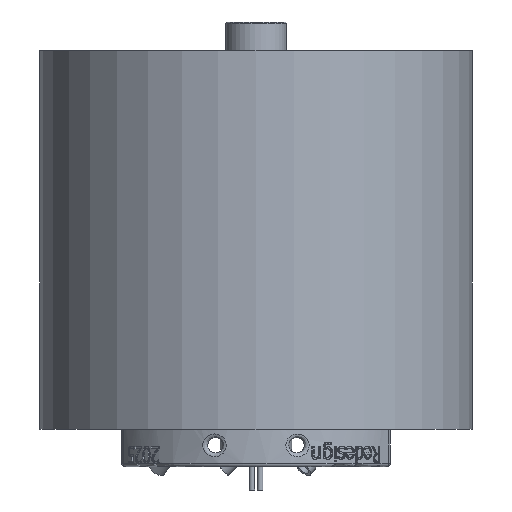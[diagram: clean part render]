
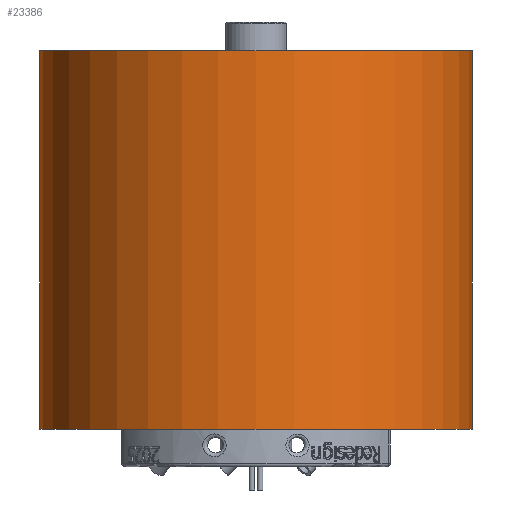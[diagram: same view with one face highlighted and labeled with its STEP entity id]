
A CAD part, front view. The second image highlights one B-rep face of the part: STEP entity #23386.
In plain terms, the highlighted cylindrical face has radius 60 mm (diameter 120 mm), a full revolution.
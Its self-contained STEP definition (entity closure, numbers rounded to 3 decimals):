
#2749=FACE_OUTER_BOUND('',#3996,.T.);
#3996=EDGE_LOOP('',(#19054,#19055,#19056,#19057));
#5339=LINE('',#45863,#7038);
#7038=VECTOR('',#28983,60.);
#8230=CIRCLE('',#24915,60.);
#8231=CIRCLE('',#24917,60.);
#10157=VERTEX_POINT('',#45859);
#10158=VERTEX_POINT('',#45862);
#13200=EDGE_CURVE('',#10157,#10157,#8230,.T.);
#13201=EDGE_CURVE('',#10157,#10158,#5339,.T.);
#13202=EDGE_CURVE('',#10158,#10158,#8231,.T.);
#19054=ORIENTED_EDGE('',*,*,#13200,.F.);
#19055=ORIENTED_EDGE('',*,*,#13201,.T.);
#19056=ORIENTED_EDGE('',*,*,#13202,.T.);
#19057=ORIENTED_EDGE('',*,*,#13201,.F.);
#21455=CYLINDRICAL_SURFACE('',#24916,60.);
#23386=ADVANCED_FACE('',(#2749),#21455,.T.);
#24915=AXIS2_PLACEMENT_3D('',#45860,#28979,#28980);
#24916=AXIS2_PLACEMENT_3D('',#45861,#28981,#28982);
#24917=AXIS2_PLACEMENT_3D('',#45864,#28984,#28985);
#28979=DIRECTION('center_axis',(0.,0.,-1.));
#28980=DIRECTION('ref_axis',(1.,0.,0.));
#28981=DIRECTION('center_axis',(0.,0.,-1.));
#28982=DIRECTION('ref_axis',(-1.,0.,0.));
#28983=DIRECTION('',(0.,0.,1.));
#28984=DIRECTION('center_axis',(0.,0.,-1.));
#28985=DIRECTION('ref_axis',(1.,0.,0.));
#45859=CARTESIAN_POINT('',(60.,0.,-38.784));
#45860=CARTESIAN_POINT('Origin',(0.,0.,-38.784));
#45861=CARTESIAN_POINT('Origin',(0.,0.,13.716));
#45862=CARTESIAN_POINT('',(60.,0.,66.216));
#45863=CARTESIAN_POINT('',(60.,0.,13.716));
#45864=CARTESIAN_POINT('Origin',(0.,0.,66.216));
